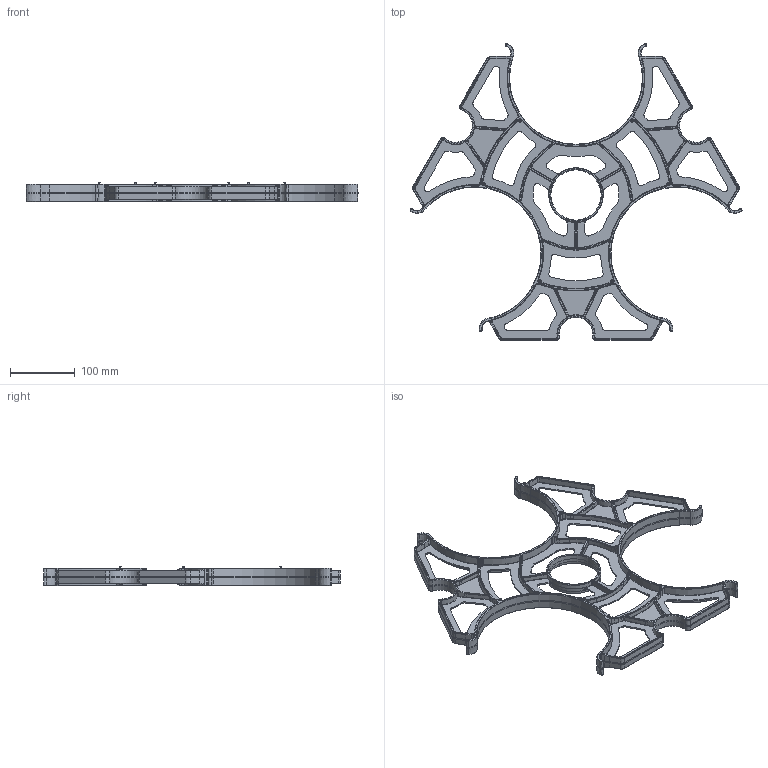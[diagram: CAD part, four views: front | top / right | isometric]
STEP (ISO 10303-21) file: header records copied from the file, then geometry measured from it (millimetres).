
FILE_DESCRIPTION(/* description */ (''),/* implementation_level */ '2;1');
FILE_NAME(/* name */ '199408300z.stp',/* time_stamp */ '2026-03-24T09:09:47+01:00',/* author */ ('corinna'),/* organization */ (''),/* preprocessor_version */ 'ST-DEVELOPER v20',/* originating_system */ 'Autodesk Inventor 2024',/* authorisation */ '');
FILE_SCHEMA (('AUTOMOTIVE_DESIGN { 1 0 10303 214 3 1 1 }'));
Products named in the file (1): 9-0108 - Abstandshalter DN200_50 3-fach 25-12-19
Bounding box: 513.18 x 458.95 x 29.64 mm (x, y, z)
Volume: 359515.4 mm3; surface area: 263015.5 mm2
Topology: 1 solids, 1 shells, 3013 faces, 7081 edges, 3898 vertices
Faces by surface type: bspline 887, cylinder 838, torus 648, plane 392, cone 224, sphere 24
Full cylindrical faces by diameter (mm): 3.066 x6, 77.672 x1
Entity records: 114956 total; most frequent: CARTESIAN_POINT 50834, ORIENTED_EDGE 13830, DIRECTION 12857, EDGE_CURVE 6915, AXIS2_PLACEMENT_3D 5277, VERTEX_POINT 3898, EDGE_LOOP 3033, CIRCLE 3032
